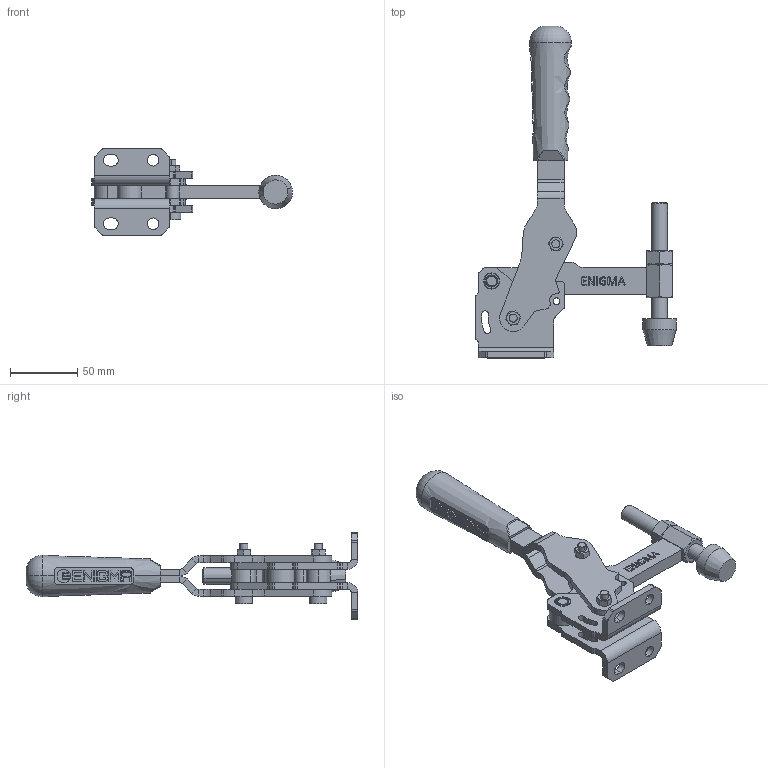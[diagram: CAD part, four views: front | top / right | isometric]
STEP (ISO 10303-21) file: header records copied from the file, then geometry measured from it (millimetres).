
FILE_DESCRIPTION (( 'STEP AP203' ), '1' );
FILE_NAME ('1583_Y.STEP', '2022-11-30T09:26:18', ( '' ), ( '' ), 'SwSTEP 2.0', 'SolidWorks 2023', '' );
FILE_SCHEMA (( 'CONFIG_CONTROL_DESIGN' ));
Length unit declared in the file: millimetre
Products named in the file (17): G39x6x8x30_Varsayılan; 2533_Hareket Kolu; 1533_Enigma Gövde_Varsayılan; 1533_baskı kolu_Varsayılan; Burc_1503_12x8x5_Varsayılan; M12 Somun_Varsayılan; 1533_M12 Lama Ön Somunu_Varsayılan; Baskı M12_Varsayılan; 1533_cap5x10_on paralel burc_Varsayılan; M6 Somun_Varsayılan; 1533_Cap8x20 Tırtıllı Pim_Varsayılan; 1533_mafsal_Varsayılan; 1533_cap8x18_ara mesafe burcu_Varsayılan; Aynalama1533_Enigma Gövde_Varsayılan; Aynalama2533_Hareket Kolu; 1583_Y; C100_T_10x20(YENİ_TUTAMAK_10x20)_Varsayılan
Assembly tree (28 placements, depth 2):
  1583_Y
    1533_Enigma Gövde_Varsayılan
    1533_baskı kolu_Varsayılan
    1533_mafsal_Varsayılan  x2
    G39x6x8x30_Varsayılan  x2
    M6 Somun_Varsayılan  x2
    1533_Cap8x20 Tırtıllı Pim_Varsayılan  x2
    1533_cap8x18_ara mesafe burcu_Varsayılan  x2
    Burc_1503_12x8x5_Varsayılan  x8
    1533_cap5x10_on paralel burc_Varsayılan
    Aynalama1533_Enigma Gövde_Varsayılan
    M12 Somun_Varsayılan
    1533_M12 Lama Ön Somunu_Varsayılan
    Baskı M12_Varsayılan
    2533_Hareket Kolu
    Aynalama2533_Hareket Kolu
    C100_T_10x20(YENİ_TUTAMAK_10x20)_Varsayılan
Bounding box: 148.96 x 246.02 x 64 mm (x, y, z)
Volume: 205861 mm3; surface area: 97394 mm2
Topology: 28 solids, 28 shells, 1637 faces, 4218 edges, 2750 vertices
Faces by surface type: plane 1073, cylinder 295, cone 138, bspline 121, torus 10
Entity records: 37245 total; most frequent: CARTESIAN_POINT 12566, ORIENTED_EDGE 4910, DIRECTION 4323, EDGE_CURVE 2455, VERTEX_POINT 1600, LINE 1505, VECTOR 1505, AXIS2_PLACEMENT_3D 1409
